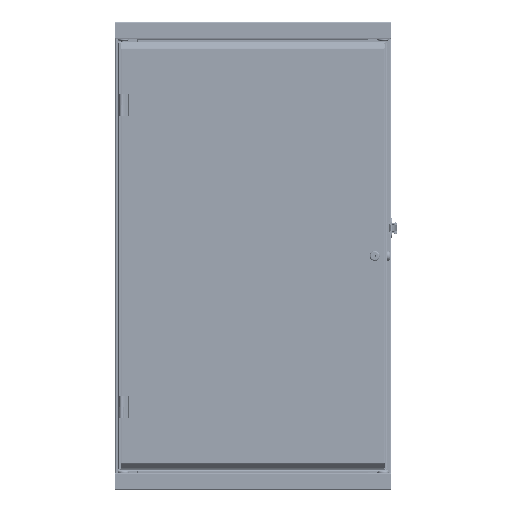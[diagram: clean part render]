
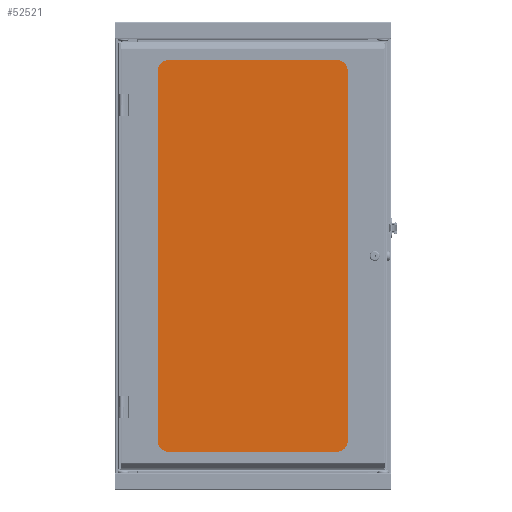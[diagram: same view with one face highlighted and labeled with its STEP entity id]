
A CAD part, front view. The second image highlights one B-rep face of the part: STEP entity #52521.
In plain terms, the highlighted planar face has unit normal (0, -1, 0).
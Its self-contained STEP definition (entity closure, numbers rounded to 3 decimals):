
#4255=LINE('',#88695,#9033);
#4259=LINE('',#88704,#9037);
#4262=LINE('',#88710,#9040);
#4265=LINE('',#88716,#9043);
#9033=VECTOR('',#70336,1000.);
#9037=VECTOR('',#70342,1000.);
#9040=VECTOR('',#70347,1000.);
#9043=VECTOR('',#70352,1000.);
#23146=ORIENTED_EDGE('',*,*,#31984,.T.);
#23147=ORIENTED_EDGE('',*,*,#31988,.T.);
#23148=ORIENTED_EDGE('',*,*,#31991,.T.);
#23149=ORIENTED_EDGE('',*,*,#31994,.T.);
#31984=EDGE_CURVE('',#37467,#37468,#4255,.T.);
#31988=EDGE_CURVE('',#37468,#37471,#4259,.T.);
#31991=EDGE_CURVE('',#37471,#37473,#4262,.T.);
#31994=EDGE_CURVE('',#37473,#37467,#4265,.T.);
#37467=VERTEX_POINT('',#88696);
#37468=VERTEX_POINT('',#88697);
#37471=VERTEX_POINT('',#88705);
#37473=VERTEX_POINT('',#88711);
#43928=EDGE_LOOP('',(#23146,#23147,#23148,#23149));
#47921=FACE_BOUND('',#43928,.T.);
#49922=PLANE('',#57504);
#52521=ADVANCED_FACE('',(#47921),#49922,.T.);
#57504=AXIS2_PLACEMENT_3D('',#88719,#70356,#70357);
#70336=DIRECTION('',(0.,0.,-1.));
#70342=DIRECTION('',(1.,0.,0.));
#70347=DIRECTION('',(0.,0.,1.));
#70352=DIRECTION('',(-1.,0.,0.));
#70356=DIRECTION('',(0.,-1.,0.));
#70357=DIRECTION('',(0.,0.,-1.));
#88695=CARTESIAN_POINT('',(-228.6,0.,463.55));
#88696=CARTESIAN_POINT('',(-228.6,0.,463.55));
#88697=CARTESIAN_POINT('',(-228.6,0.,-463.55));
#88704=CARTESIAN_POINT('',(-228.6,0.,-463.55));
#88705=CARTESIAN_POINT('',(228.6,0.,-463.55));
#88710=CARTESIAN_POINT('',(228.6,0.,-463.55));
#88711=CARTESIAN_POINT('',(228.6,0.,463.55));
#88716=CARTESIAN_POINT('',(228.6,0.,463.55));
#88719=CARTESIAN_POINT('',(-228.6,0.,-463.55));
